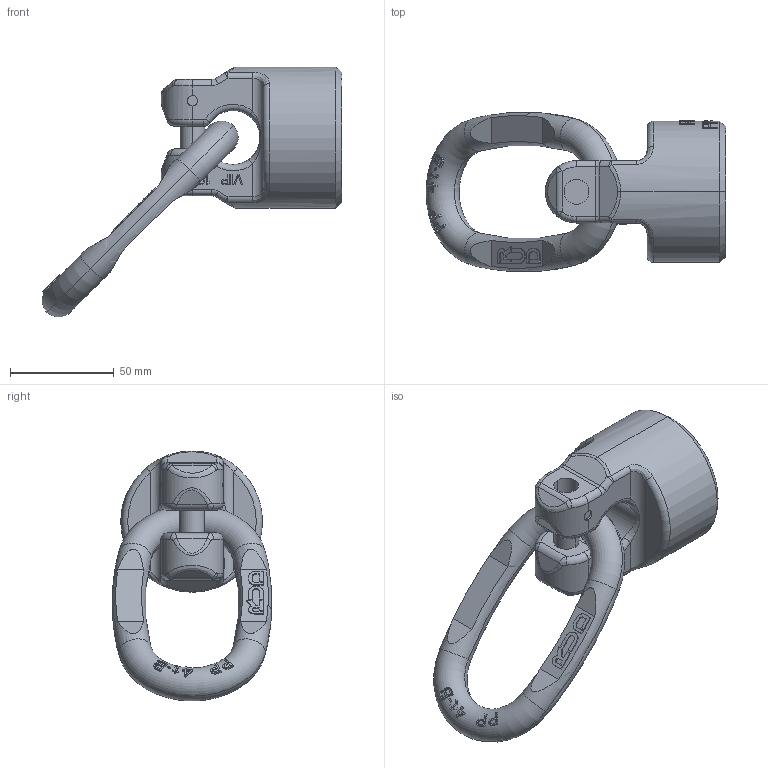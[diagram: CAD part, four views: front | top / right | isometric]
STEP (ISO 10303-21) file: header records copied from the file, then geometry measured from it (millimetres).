
FILE_DESCRIPTION((''),'2;1');
FILE_NAME('001-M31341-P-50_ASM','2018-04-26T',('Anja.Joas'),(''),'PRO/ENGINEER BY PARAMETRIC TECHNOLOGY CORPORATION, 2011490','PRO/ENGINEER BY PARAMETRIC TECHNOLOGY CORPORATION, 2011490','');
FILE_SCHEMA(('CONFIG_CONTROL_DESIGN'));
Length unit declared in the file: millimetre
Products named in the file (3): 001-M31341-P-20_AF0; 001-M31290-003; 001-M31341-P-50_ASM
Assembly tree (2 placements, depth 2):
  001-M31341-P-50_ASM
    001-M31341-P-20_AF0
    001-M31290-003
Bounding box: 144.46 x 76.57 x 120.46 mm (x, y, z)
Volume: 248451.2 mm3; surface area: 38355.3 mm2
Topology: 2 solids, 2 shells, 575 faces, 1525 edges, 990 vertices
Faces by surface type: plane 450, cylinder 61, torus 31, bspline 26, sphere 4, cone 2, extrusion 1
Entity records: 19774 total; most frequent: CARTESIAN_POINT 6005, ORIENTED_EDGE 3050, DIRECTION 2522, EDGE_CURVE 1525, VERTEX_POINT 990, VECTOR 922, LINE 921, AXIS2_PLACEMENT_3D 800
